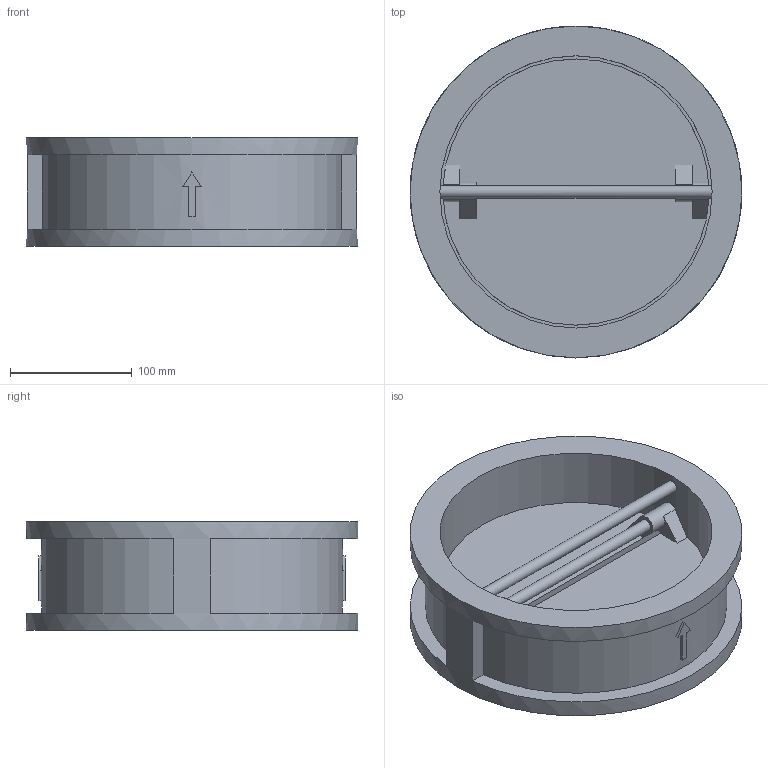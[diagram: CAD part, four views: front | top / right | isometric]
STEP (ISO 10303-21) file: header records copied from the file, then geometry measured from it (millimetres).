
FILE_DESCRIPTION(('STEP AP203'), '1');
FILE_NAME('孰囡囗 钺疣蝽 溻篚耱忸瘅囹 戾骠豚眦邂 010C.Y DN200', '', ('UNSPECIFIED'), ('UNSPECIFIED'), 'ASCON STEP Converter 1.6', 'ASCON Math Kernel', '');
FILE_SCHEMA(('CONFIG_CONTROL_DESIGN'));
Length unit declared in the file: millimetre
Bounding box: 273 x 273 x 89 mm (x, y, z)
Volume: 1853340.8 mm3; surface area: 300344.7 mm2
Topology: 1 solids, 1 shells, 75 faces, 210 edges, 138 vertices
Faces by surface type: plane 58, cylinder 16, cone 1
Full cylindrical faces by diameter (mm): 10 x4, 224 x1, 273 x1
Entity records: 4358 total; most frequent: CARTESIAN_POINT 1819, ORIENTED_EDGE 404, DIRECTION 370, EDGE_CURVE 202, VERTEX_POINT 138, LINE 130, VECTOR 130, AXIS2_PLACEMENT_3D 120
